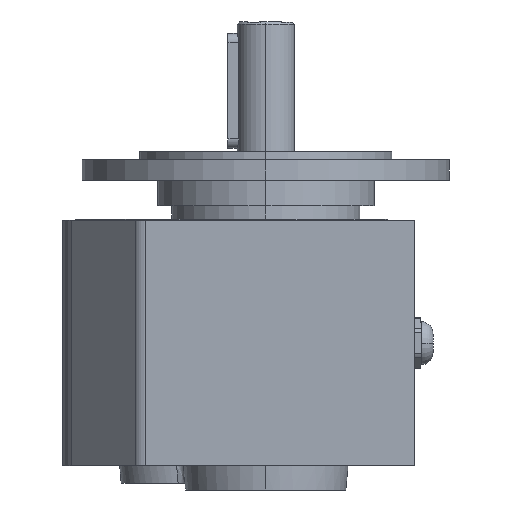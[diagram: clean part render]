
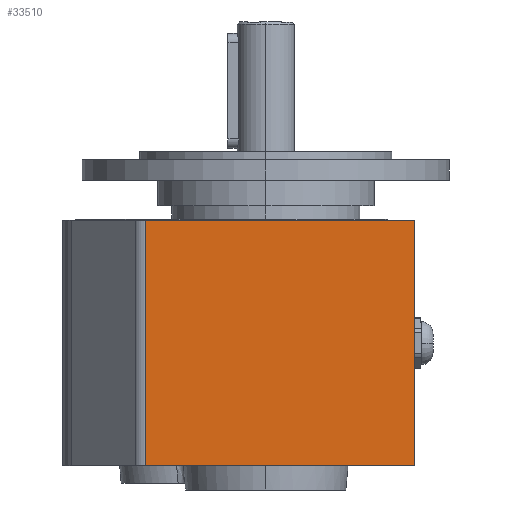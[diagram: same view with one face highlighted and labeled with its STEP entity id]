
A CAD part, left-side view. The second image highlights one B-rep face of the part: STEP entity #33510.
In plain terms, the highlighted planar face has unit normal (-1, 0, 0) as drawn and (0, 1, -0.026) by its records, which use the part's own axes.
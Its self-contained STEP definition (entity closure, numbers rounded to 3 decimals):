
#33120=CARTESIAN_POINT('',(-139.,719.098,
-224.927));
#33130=DIRECTION('',(0.,1.,
-0.026));
#33140=DIRECTION('',(1.,0.,0.));
#33150=AXIS2_PLACEMENT_3D('',#33120,#33130,#33140);
#33160=PLANE('',#33150);
#33170=CARTESIAN_POINT('',(-27.25,722.703,
-87.272));
#33180=DIRECTION('',(1.,0.,0.));
#33190=VECTOR('',#33180,1.);
#33200=LINE('',#33170,#33190);
#33210=CARTESIAN_POINT('',(-117.5,722.703,
-87.272));
#33220=VERTEX_POINT('',#33210);
#33230=CARTESIAN_POINT('',(-10.5,722.703,
-87.272));
#33240=VERTEX_POINT('',#33230);
#33250=EDGE_CURVE('',#33220,#33240,#33200,.T.);
#33260=ORIENTED_EDGE('',*,*,#33250,.T.);
#33270=CARTESIAN_POINT('',(-117.5,721.371,
-138.153));
#33280=DIRECTION('',(0.,0.026,
1.));
#33290=VECTOR('',#33280,1.);
#33300=LINE('',#33270,#33290);
#33310=CARTESIAN_POINT('',(-117.5,719.635,
-204.434));
#33320=VERTEX_POINT('',#33310);
#33330=EDGE_CURVE('',#33320,#33220,#33300,.T.);
#33340=ORIENTED_EDGE('',*,*,#33330,.T.);
#33350=CARTESIAN_POINT('',(-132.5,719.635,
-204.434));
#33360=DIRECTION('',(-1.,0.,0.));
#33370=VECTOR('',#33360,1.);
#33380=LINE('',#33350,#33370);
#33390=CARTESIAN_POINT('',(-10.5,719.635,
-204.434));
#33400=VERTEX_POINT('',#33390);
#33410=EDGE_CURVE('',#33400,#33320,#33380,.T.);
#33420=ORIENTED_EDGE('',*,*,#33410,.T.);
#33430=CARTESIAN_POINT('',(-10.5,721.371,
-138.153));
#33440=DIRECTION('',(0.,-0.026,
-1.));
#33450=VECTOR('',#33440,1.);
#33460=LINE('',#33430,#33450);
#33470=EDGE_CURVE('',#33240,#33400,#33460,.T.);
#33480=ORIENTED_EDGE('',*,*,#33470,.T.);
#33490=EDGE_LOOP('',(#33480,#33420,#33340,#33260));
#33500=FACE_OUTER_BOUND('',#33490,.T.);
#33510=ADVANCED_FACE('',(#33500),#33160,.T.);
